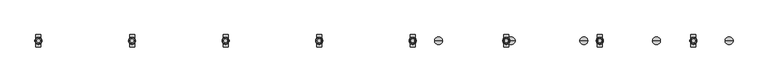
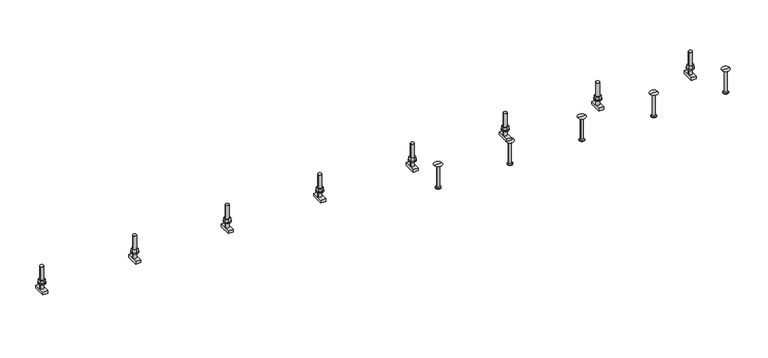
"""IFC4 building model written with IfcOpenShell, lengths in millimetres: fastener geometry, JTA-W JORDAHL® AnchorChannels : JTA-W L=3000 mm."""

from ifc_helpers import new_model, si_unit, point, frame, frame_2d, origin, place, context, project, spatial, polyline, circle_curve, trimmed, segment, composite_curve, outline, extrude, source, transform, mapped, element, save
from ifc_brep_helpers import plane_surface, cylinder_surface, revolved_surface, advanced_brep


def fastener_a6c46896(model_context):
    return source(origin(), model_context, "Body", "SolidModel", [
        extrude(outline(polyline([(2608.3333333, -10.3923048), (2599.3333333, -5.1961524), (2599.3333333, 5.1961524), (2608.3333333, 10.3923048), (2617.3333333, 5.1961524), (2617.3333333, -5.1961524), (2608.3333333, -10.3923048)]), holes=[composite_curve([segment(trimmed(circle_curve(frame_2d((2608.3333333, 0.0)), 6.0), [point((2602.3333333, 0.0))], [point((2614.3333333, 0.0))], True, "CARTESIAN"), True, "CONTINUOUS"), segment(trimmed(circle_curve(frame_2d((2608.3333333, 0.0)), 6.0), [point((2614.3333333, 0.0))], [point((2602.3333333, 0.0))], True, "CARTESIAN"), True, "CONTINUOUS")], self_intersect=False)]), frame((0.0, 0.0, 17.5), z_axis=(0.0, 0.0, 1.0), x_axis=(1.0, 0.0, 0.0)), (0.0, 0.0, 1.0), 10.8),
        extrude(outline(composite_curve([segment(trimmed(circle_curve(frame_2d((2608.3333333, 0.0)), 12.0), [point((2596.3333333, 0.0))], [point((2620.3333333, 0.0))], False, "CARTESIAN"), True, "CONTINUOUS"), segment(trimmed(circle_curve(frame_2d((2608.3333333, 0.0)), 12.0), [point((2620.3333333, 0.0))], [point((2596.3333333, 0.0))], False, "CARTESIAN"), True, "CONTINUOUS")], self_intersect=False), holes=[composite_curve([segment(trimmed(circle_curve(frame_2d((2608.3333333, 0.0)), 6.5), [point((2601.8333333, 0.0))], [point((2614.8333333, 0.0))], True, "CARTESIAN"), True, "CONTINUOUS"), segment(trimmed(circle_curve(frame_2d((2608.3333333, 0.0)), 6.5), [point((2614.8333333, 0.0))], [point((2601.8333333, 0.0))], True, "CARTESIAN"), True, "CONTINUOUS")], self_intersect=False)]), frame((0.0, 0.0, 15.0), z_axis=(0.0, 0.0, 1.0), x_axis=(1.0, 0.0, 0.0)), (0.0, 0.0, 1.0), 2.5),
        extrude(outline(polyline([(2291.6666667, -10.3923048), (2282.6666667, -5.1961524), (2282.6666667, 5.1961524), (2291.6666667, 10.3923048), (2300.6666667, 5.1961524), (2300.6666667, -5.1961524), (2291.6666667, -10.3923048)]), holes=[composite_curve([segment(trimmed(circle_curve(frame_2d((2291.6666667, 0.0)), 6.0), [point((2285.6666667, 0.0))], [point((2297.6666667, 0.0))], True, "CARTESIAN"), True, "CONTINUOUS"), segment(trimmed(circle_curve(frame_2d((2291.6666667, 0.0)), 6.0), [point((2297.6666667, 0.0))], [point((2285.6666667, 0.0))], True, "CARTESIAN"), True, "CONTINUOUS")], self_intersect=False)]), frame((0.0, 0.0, 17.5), z_axis=(0.0, 0.0, 1.0), x_axis=(1.0, 0.0, 0.0)), (0.0, 0.0, 1.0), 10.8),
        extrude(outline(composite_curve([segment(trimmed(circle_curve(frame_2d((2291.6666667, 0.0)), 12.0), [point((2279.6666667, 0.0))], [point((2303.6666667, 0.0))], False, "CARTESIAN"), True, "CONTINUOUS"), segment(trimmed(circle_curve(frame_2d((2291.6666667, 0.0)), 12.0), [point((2303.6666667, 0.0))], [point((2279.6666667, 0.0))], False, "CARTESIAN"), True, "CONTINUOUS")], self_intersect=False), holes=[composite_curve([segment(trimmed(circle_curve(frame_2d((2291.6666667, 0.0)), 6.5), [point((2285.1666667, 0.0))], [point((2298.1666667, 0.0))], True, "CARTESIAN"), True, "CONTINUOUS"), segment(trimmed(circle_curve(frame_2d((2291.6666667, 0.0)), 6.5), [point((2298.1666667, 0.0))], [point((2285.1666667, 0.0))], True, "CARTESIAN"), True, "CONTINUOUS")], self_intersect=False)]), frame((0.0, 0.0, 15.0), z_axis=(0.0, 0.0, 1.0), x_axis=(1.0, 0.0, 0.0)), (0.0, 0.0, 1.0), 2.5),
        extrude(outline(polyline([(1975.0, -10.3923048), (1966.0, -5.1961524), (1966.0, 5.1961524), (1975.0, 10.3923048), (1984.0, 5.1961524), (1984.0, -5.1961524), (1975.0, -10.3923048)]), holes=[composite_curve([segment(trimmed(circle_curve(frame_2d((1975.0, 0.0)), 6.0), [point((1969.0, 0.0))], [point((1981.0, 0.0))], True, "CARTESIAN"), True, "CONTINUOUS"), segment(trimmed(circle_curve(frame_2d((1975.0, 0.0)), 6.0), [point((1981.0, 0.0))], [point((1969.0, 0.0))], True, "CARTESIAN"), True, "CONTINUOUS")], self_intersect=False)]), frame((0.0, 0.0, 17.5), z_axis=(0.0, 0.0, 1.0), x_axis=(1.0, 0.0, 0.0)), (0.0, 0.0, 1.0), 10.8),
        extrude(outline(composite_curve([segment(trimmed(circle_curve(frame_2d((1975.0, 0.0)), 12.0), [point((1963.0, 0.0))], [point((1987.0, 0.0))], False, "CARTESIAN"), True, "CONTINUOUS"), segment(trimmed(circle_curve(frame_2d((1975.0, 0.0)), 12.0), [point((1987.0, 0.0))], [point((1963.0, 0.0))], False, "CARTESIAN"), True, "CONTINUOUS")], self_intersect=False), holes=[composite_curve([segment(trimmed(circle_curve(frame_2d((1975.0, 0.0)), 6.5), [point((1968.5, 0.0))], [point((1981.5, 0.0))], True, "CARTESIAN"), True, "CONTINUOUS"), segment(trimmed(circle_curve(frame_2d((1975.0, 0.0)), 6.5), [point((1981.5, 0.0))], [point((1968.5, 0.0))], True, "CARTESIAN"), True, "CONTINUOUS")], self_intersect=False)]), frame((0.0, 0.0, 15.0), z_axis=(0.0, 0.0, 1.0), x_axis=(1.0, 0.0, 0.0)), (0.0, 0.0, 1.0), 2.5),
        extrude(outline(polyline([(1658.3333333, -10.3923048), (1649.3333333, -5.1961524), (1649.3333333, 5.1961524), (1658.3333333, 10.3923048), (1667.3333333, 5.1961524), (1667.3333333, -5.1961524), (1658.3333333, -10.3923048)]), holes=[composite_curve([segment(trimmed(circle_curve(frame_2d((1658.3333333, 0.0)), 6.0), [point((1652.3333333, 0.0))], [point((1664.3333333, 0.0))], True, "CARTESIAN"), True, "CONTINUOUS"), segment(trimmed(circle_curve(frame_2d((1658.3333333, 0.0)), 6.0), [point((1664.3333333, 0.0))], [point((1652.3333333, 0.0))], True, "CARTESIAN"), True, "CONTINUOUS")], self_intersect=False)]), frame((0.0, 0.0, 17.5), z_axis=(0.0, 0.0, 1.0), x_axis=(1.0, 0.0, 0.0)), (0.0, 0.0, 1.0), 10.8),
        extrude(outline(composite_curve([segment(trimmed(circle_curve(frame_2d((1658.3333333, 0.0)), 12.0), [point((1646.3333333, 0.0))], [point((1670.3333333, 0.0))], False, "CARTESIAN"), True, "CONTINUOUS"), segment(trimmed(circle_curve(frame_2d((1658.3333333, 0.0)), 12.0), [point((1670.3333333, 0.0))], [point((1646.3333333, 0.0))], False, "CARTESIAN"), True, "CONTINUOUS")], self_intersect=False), holes=[composite_curve([segment(trimmed(circle_curve(frame_2d((1658.3333333, 0.0)), 6.5), [point((1651.8333333, 0.0))], [point((1664.8333333, 0.0))], True, "CARTESIAN"), True, "CONTINUOUS"), segment(trimmed(circle_curve(frame_2d((1658.3333333, 0.0)), 6.5), [point((1664.8333333, 0.0))], [point((1651.8333333, 0.0))], True, "CARTESIAN"), True, "CONTINUOUS")], self_intersect=False)]), frame((0.0, 0.0, 15.0), z_axis=(0.0, 0.0, 1.0), x_axis=(1.0, 0.0, 0.0)), (0.0, 0.0, 1.0), 2.5),
        extrude(outline(polyline([(1341.6666667, -10.3923048), (1332.6666667, -5.1961524), (1332.6666667, 5.1961524), (1341.6666667, 10.3923048), (1350.6666667, 5.1961524), (1350.6666667, -5.1961524), (1341.6666667, -10.3923048)]), holes=[composite_curve([segment(trimmed(circle_curve(frame_2d((1341.6666667, 0.0)), 6.0), [point((1335.6666667, 0.0))], [point((1347.6666667, 0.0))], True, "CARTESIAN"), True, "CONTINUOUS"), segment(trimmed(circle_curve(frame_2d((1341.6666667, 0.0)), 6.0), [point((1347.6666667, 0.0))], [point((1335.6666667, 0.0))], True, "CARTESIAN"), True, "CONTINUOUS")], self_intersect=False)]), frame((0.0, 0.0, 17.5), z_axis=(0.0, 0.0, 1.0), x_axis=(1.0, 0.0, 0.0)), (0.0, 0.0, 1.0), 10.8),
        extrude(outline(composite_curve([segment(trimmed(circle_curve(frame_2d((1341.6666667, 0.0)), 12.0), [point((1329.6666667, 0.0))], [point((1353.6666667, 0.0))], False, "CARTESIAN"), True, "CONTINUOUS"), segment(trimmed(circle_curve(frame_2d((1341.6666667, 0.0)), 12.0), [point((1353.6666667, 0.0))], [point((1329.6666667, 0.0))], False, "CARTESIAN"), True, "CONTINUOUS")], self_intersect=False), holes=[composite_curve([segment(trimmed(circle_curve(frame_2d((1341.6666667, 0.0)), 6.5), [point((1335.1666667, 0.0))], [point((1348.1666667, 0.0))], True, "CARTESIAN"), True, "CONTINUOUS"), segment(trimmed(circle_curve(frame_2d((1341.6666667, 0.0)), 6.5), [point((1348.1666667, 0.0))], [point((1335.1666667, 0.0))], True, "CARTESIAN"), True, "CONTINUOUS")], self_intersect=False)]), frame((0.0, 0.0, 15.0), z_axis=(0.0, 0.0, 1.0), x_axis=(1.0, 0.0, 0.0)), (0.0, 0.0, 1.0), 2.5),
        extrude(outline(polyline([(1025.0, -10.3923048), (1016.0, -5.1961524), (1016.0, 5.1961524), (1025.0, 10.3923048), (1034.0, 5.1961524), (1034.0, -5.1961524), (1025.0, -10.3923048)]), holes=[composite_curve([segment(trimmed(circle_curve(frame_2d((1025.0, 0.0)), 6.0), [point((1019.0, 0.0))], [point((1031.0, 0.0))], True, "CARTESIAN"), True, "CONTINUOUS"), segment(trimmed(circle_curve(frame_2d((1025.0, 0.0)), 6.0), [point((1031.0, 0.0))], [point((1019.0, 0.0))], True, "CARTESIAN"), True, "CONTINUOUS")], self_intersect=False)]), frame((0.0, 0.0, 17.5), z_axis=(0.0, 0.0, 1.0), x_axis=(1.0, 0.0, 0.0)), (0.0, 0.0, 1.0), 10.8),
        extrude(outline(composite_curve([segment(trimmed(circle_curve(frame_2d((1025.0, 0.0)), 12.0), [point((1013.0, 0.0))], [point((1037.0, 0.0))], False, "CARTESIAN"), True, "CONTINUOUS"), segment(trimmed(circle_curve(frame_2d((1025.0, 0.0)), 12.0), [point((1037.0, 0.0))], [point((1013.0, 0.0))], False, "CARTESIAN"), True, "CONTINUOUS")], self_intersect=False), holes=[composite_curve([segment(trimmed(circle_curve(frame_2d((1025.0, 0.0)), 6.5), [point((1018.5, 0.0))], [point((1031.5, 0.0))], True, "CARTESIAN"), True, "CONTINUOUS"), segment(trimmed(circle_curve(frame_2d((1025.0, 0.0)), 6.5), [point((1031.5, 0.0))], [point((1018.5, 0.0))], True, "CARTESIAN"), True, "CONTINUOUS")], self_intersect=False)]), frame((0.0, 0.0, 15.0), z_axis=(0.0, 0.0, 1.0), x_axis=(1.0, 0.0, 0.0)), (0.0, 0.0, 1.0), 2.5),
        extrude(outline(polyline([(708.3333333, -10.3923048), (699.3333333, -5.1961524), (699.3333333, 5.1961524), (708.3333333, 10.3923048), (717.3333333, 5.1961524), (717.3333333, -5.1961524), (708.3333333, -10.3923048)]), holes=[composite_curve([segment(trimmed(circle_curve(frame_2d((708.3333333, 0.0)), 6.0), [point((702.3333333, 0.0))], [point((714.3333333, 0.0))], True, "CARTESIAN"), True, "CONTINUOUS"), segment(trimmed(circle_curve(frame_2d((708.3333333, 0.0)), 6.0), [point((714.3333333, 0.0))], [point((702.3333333, 0.0))], True, "CARTESIAN"), True, "CONTINUOUS")], self_intersect=False)]), frame((0.0, 0.0, 17.5), z_axis=(0.0, 0.0, 1.0), x_axis=(1.0, 0.0, 0.0)), (0.0, 0.0, 1.0), 10.8),
        extrude(outline(composite_curve([segment(trimmed(circle_curve(frame_2d((708.3333333, 0.0)), 12.0), [point((696.3333333, 0.0))], [point((720.3333333, 0.0))], False, "CARTESIAN"), True, "CONTINUOUS"), segment(trimmed(circle_curve(frame_2d((708.3333333, 0.0)), 12.0), [point((720.3333333, 0.0))], [point((696.3333333, 0.0))], False, "CARTESIAN"), True, "CONTINUOUS")], self_intersect=False), holes=[composite_curve([segment(trimmed(circle_curve(frame_2d((708.3333333, 0.0)), 6.5), [point((701.8333333, 0.0))], [point((714.8333333, 0.0))], True, "CARTESIAN"), True, "CONTINUOUS"), segment(trimmed(circle_curve(frame_2d((708.3333333, 0.0)), 6.5), [point((714.8333333, 0.0))], [point((701.8333333, 0.0))], True, "CARTESIAN"), True, "CONTINUOUS")], self_intersect=False)]), frame((0.0, 0.0, 15.0), z_axis=(0.0, 0.0, 1.0), x_axis=(1.0, 0.0, 0.0)), (0.0, 0.0, 1.0), 2.5),
        extrude(outline(polyline([(391.6666667, -10.3923048), (382.6666667, -5.1961524), (382.6666667, 5.1961524), (391.6666667, 10.3923048), (400.6666667, 5.1961524), (400.6666667, -5.1961524), (391.6666667, -10.3923048)]), holes=[composite_curve([segment(trimmed(circle_curve(frame_2d((391.6666667, 0.0)), 6.0), [point((385.6666667, 0.0))], [point((397.6666667, 0.0))], True, "CARTESIAN"), True, "CONTINUOUS"), segment(trimmed(circle_curve(frame_2d((391.6666667, 0.0)), 6.0), [point((397.6666667, 0.0))], [point((385.6666667, 0.0))], True, "CARTESIAN"), True, "CONTINUOUS")], self_intersect=False)]), frame((0.0, 0.0, 17.5), z_axis=(0.0, 0.0, 1.0), x_axis=(1.0, 0.0, 0.0)), (0.0, 0.0, 1.0), 10.8),
        extrude(outline(composite_curve([segment(trimmed(circle_curve(frame_2d((391.6666667, 0.0)), 12.0), [point((379.6666667, 0.0))], [point((403.6666667, 0.0))], False, "CARTESIAN"), True, "CONTINUOUS"), segment(trimmed(circle_curve(frame_2d((391.6666667, 0.0)), 12.0), [point((403.6666667, 0.0))], [point((379.6666667, 0.0))], False, "CARTESIAN"), True, "CONTINUOUS")], self_intersect=False), holes=[composite_curve([segment(trimmed(circle_curve(frame_2d((391.6666667, 0.0)), 6.5), [point((385.1666667, 0.0))], [point((398.1666667, 0.0))], True, "CARTESIAN"), True, "CONTINUOUS"), segment(trimmed(circle_curve(frame_2d((391.6666667, 0.0)), 6.5), [point((398.1666667, 0.0))], [point((385.1666667, 0.0))], True, "CARTESIAN"), True, "CONTINUOUS")], self_intersect=False)]), frame((0.0, 0.0, 15.0), z_axis=(0.0, 0.0, 1.0), x_axis=(1.0, 0.0, 0.0)), (0.0, 0.0, 1.0), 2.5),
        advanced_brep(
        [(2616.8333333, -20.7, -4.0), (2616.8333333, -20.7, -14.0), (2616.8333333, 20.7, -14.0), (2616.8333333, 20.7, -4.0), (2599.8333333, -20.7, -4.0), (2599.8333333, 20.7, -4.0), (2599.8333333, 20.7, -14.0), (2599.8333333, -20.7, -14.0), (2614.3333333, 0.0, -4.0), (2602.3333333, 0.0, -4.0), (2602.3333333, 0.0, 76.0), (2614.3333333, 0.0, 76.0)],
        [
            (0, 1),
            (1, 2),
            (2, 3),
            (3, 0),
            (4, 5),
            (5, 6),
            (6, 7),
            (7, 4),
            (3, 5),
            (4, 0),
            (8, 9, circle_curve(frame((2608.3333333, 0.0, -4.0), z_axis=(0.0, 0.0, -1.0), x_axis=(1.0, 0.0, 0.0)), 6.0)),
            (9, 8, circle_curve(frame((2608.3333333, 0.0, -4.0), z_axis=(0.0, 0.0, -1.0), x_axis=(1.0, 0.0, 0.0)), 6.0)),
            (2, 6),
            (1, 7),
            (10, 11, circle_curve(frame((2608.3333333, 0.0, 76.0), z_axis=(0.0, 0.0, 1.0), x_axis=(1.0, 0.0, 0.0)), 6.0)),
            (11, 10, circle_curve(frame((2608.3333333, 0.0, 76.0), z_axis=(0.0, 0.0, 1.0), x_axis=(1.0, 0.0, 0.0)), 6.0)),
            (11, 8),
            (9, 10),
        ],
        [
            plane_surface(frame((2616.8333333, 20.7, -4.0), z_axis=(1.0, 0.0, 0.0), x_axis=(0.0, 1.0, 0.0))),
            plane_surface(frame((2599.8333333, 20.7, -4.0), z_axis=(-1.0, 0.0, 0.0), x_axis=(0.0, -1.0, 0.0))),
            plane_surface(frame((2616.8333333, -20.7, -4.0), z_axis=(0.0, 0.0, 1.0), x_axis=(-1.0, 0.0, 0.0))),
            plane_surface(frame((2616.8333333, 20.7, -4.0), z_axis=(0.0, 1.0, 0.0), x_axis=(-1.0, 0.0, 0.0))),
            plane_surface(frame((2616.8333333, 20.7, -14.0), z_axis=(0.0, 0.0, -1.0), x_axis=(-1.0, 0.0, 0.0))),
            plane_surface(frame((2616.8333333, -20.7, -14.0), z_axis=(0.0, -1.0, 0.0), x_axis=(-1.0, 0.0, 0.0))),
            plane_surface(frame((2614.3333333, 0.0, 76.0), z_axis=(0.0, 0.0, 1.0), x_axis=(0.0, -1.0, 0.0))),
            cylinder_surface(frame((2608.3333333, 0.0, -4.0), z_axis=(0.0, 0.0, 1.0), x_axis=(1.0, 0.0, 0.0)), 6.0),
        ],
        [
            (0, [[1, 2, 3, 4]]),
            (1, [[5, 6, 7, 8]]),
            (2, [[9, -5, 10, -4], [11, 12]]),
            (3, [[13, -6, -9, -3]]),
            (4, [[14, -7, -13, -2]]),
            (5, [[-10, -8, -14, -1]]),
            (6, [[15, 16]]),
            (7, [[17, -12, 18, -16]]),
            (7, [[-18, -11, -17, -15]]),
        ],
    ),
        advanced_brep(
        [(2300.1666667, -20.7, -4.0), (2300.1666667, -20.7, -14.0), (2300.1666667, 20.7, -14.0), (2300.1666667, 20.7, -4.0), (2283.1666667, -20.7, -4.0), (2283.1666667, 20.7, -4.0), (2283.1666667, 20.7, -14.0), (2283.1666667, -20.7, -14.0), (2297.6666667, 0.0, -4.0), (2285.6666667, 0.0, -4.0), (2285.6666667, 0.0, 76.0), (2297.6666667, 0.0, 76.0)],
        [
            (0, 1),
            (1, 2),
            (2, 3),
            (3, 0),
            (4, 5),
            (5, 6),
            (6, 7),
            (7, 4),
            (3, 5),
            (4, 0),
            (8, 9, circle_curve(frame((2291.6666667, 0.0, -4.0), z_axis=(0.0, 0.0, -1.0), x_axis=(1.0, 0.0, 0.0)), 6.0)),
            (9, 8, circle_curve(frame((2291.6666667, 0.0, -4.0), z_axis=(0.0, 0.0, -1.0), x_axis=(1.0, 0.0, 0.0)), 6.0)),
            (2, 6),
            (1, 7),
            (10, 11, circle_curve(frame((2291.6666667, 0.0, 76.0), z_axis=(0.0, 0.0, 1.0), x_axis=(1.0, 0.0, 0.0)), 6.0)),
            (11, 10, circle_curve(frame((2291.6666667, 0.0, 76.0), z_axis=(0.0, 0.0, 1.0), x_axis=(1.0, 0.0, 0.0)), 6.0)),
            (11, 8),
            (9, 10),
        ],
        [
            plane_surface(frame((2300.1666667, 20.7, -4.0), z_axis=(1.0, 0.0, 0.0), x_axis=(0.0, 1.0, 0.0))),
            plane_surface(frame((2283.1666667, 20.7, -4.0), z_axis=(-1.0, 0.0, 0.0), x_axis=(0.0, -1.0, 0.0))),
            plane_surface(frame((2300.1666667, -20.7, -4.0), z_axis=(0.0, 0.0, 1.0), x_axis=(-1.0, 0.0, 0.0))),
            plane_surface(frame((2300.1666667, 20.7, -4.0), z_axis=(0.0, 1.0, 0.0), x_axis=(-1.0, 0.0, 0.0))),
            plane_surface(frame((2300.1666667, 20.7, -14.0), z_axis=(0.0, 0.0, -1.0), x_axis=(-1.0, 0.0, 0.0))),
            plane_surface(frame((2300.1666667, -20.7, -14.0), z_axis=(0.0, -1.0, 0.0), x_axis=(-1.0, 0.0, 0.0))),
            plane_surface(frame((2297.6666667, 0.0, 76.0), z_axis=(0.0, 0.0, 1.0), x_axis=(0.0, -1.0, 0.0))),
            cylinder_surface(frame((2291.6666667, 0.0, -4.0), z_axis=(0.0, 0.0, 1.0), x_axis=(1.0, 0.0, 0.0)), 6.0),
        ],
        [
            (0, [[1, 2, 3, 4]]),
            (1, [[5, 6, 7, 8]]),
            (2, [[9, -5, 10, -4], [11, 12]]),
            (3, [[13, -6, -9, -3]]),
            (4, [[14, -7, -13, -2]]),
            (5, [[-10, -8, -14, -1]]),
            (6, [[15, 16]]),
            (7, [[17, -12, 18, -16]]),
            (7, [[-18, -11, -17, -15]]),
        ],
    ),
        advanced_brep(
        [(1983.5, -20.7, -4.0), (1983.5, -20.7, -14.0), (1983.5, 20.7, -14.0), (1983.5, 20.7, -4.0), (1966.5, -20.7, -4.0), (1966.5, 20.7, -4.0), (1966.5, 20.7, -14.0), (1966.5, -20.7, -14.0), (1981.0, 0.0, -4.0), (1969.0, 0.0, -4.0), (1969.0, 0.0, 76.0), (1981.0, 0.0, 76.0)],
        [
            (0, 1),
            (1, 2),
            (2, 3),
            (3, 0),
            (4, 5),
            (5, 6),
            (6, 7),
            (7, 4),
            (3, 5),
            (4, 0),
            (8, 9, circle_curve(frame((1975.0, 0.0, -4.0), z_axis=(0.0, 0.0, -1.0), x_axis=(1.0, 0.0, 0.0)), 6.0)),
            (9, 8, circle_curve(frame((1975.0, 0.0, -4.0), z_axis=(0.0, 0.0, -1.0), x_axis=(1.0, 0.0, 0.0)), 6.0)),
            (2, 6),
            (1, 7),
            (10, 11, circle_curve(frame((1975.0, 0.0, 76.0), z_axis=(0.0, 0.0, 1.0), x_axis=(1.0, 0.0, 0.0)), 6.0)),
            (11, 10, circle_curve(frame((1975.0, 0.0, 76.0), z_axis=(0.0, 0.0, 1.0), x_axis=(1.0, 0.0, 0.0)), 6.0)),
            (11, 8),
            (9, 10),
        ],
        [
            plane_surface(frame((1983.5, 20.7, -4.0), z_axis=(1.0, 0.0, 0.0), x_axis=(0.0, 1.0, 0.0))),
            plane_surface(frame((1966.5, 20.7, -4.0), z_axis=(-1.0, 0.0, 0.0), x_axis=(0.0, -1.0, 0.0))),
            plane_surface(frame((1983.5, -20.7, -4.0), z_axis=(0.0, 0.0, 1.0), x_axis=(-1.0, 0.0, 0.0))),
            plane_surface(frame((1983.5, 20.7, -4.0), z_axis=(0.0, 1.0, 0.0), x_axis=(-1.0, 0.0, 0.0))),
            plane_surface(frame((1983.5, 20.7, -14.0), z_axis=(0.0, 0.0, -1.0), x_axis=(-1.0, 0.0, 0.0))),
            plane_surface(frame((1983.5, -20.7, -14.0), z_axis=(0.0, -1.0, 0.0), x_axis=(-1.0, 0.0, 0.0))),
            plane_surface(frame((1981.0, 0.0, 76.0), z_axis=(0.0, 0.0, 1.0), x_axis=(0.0, -1.0, 0.0))),
            cylinder_surface(frame((1975.0, 0.0, -4.0), z_axis=(0.0, 0.0, 1.0), x_axis=(1.0, 0.0, 0.0)), 6.0),
        ],
        [
            (0, [[1, 2, 3, 4]]),
            (1, [[5, 6, 7, 8]]),
            (2, [[9, -5, 10, -4], [11, 12]]),
            (3, [[13, -6, -9, -3]]),
            (4, [[14, -7, -13, -2]]),
            (5, [[-10, -8, -14, -1]]),
            (6, [[15, 16]]),
            (7, [[17, -12, 18, -16]]),
            (7, [[-18, -11, -17, -15]]),
        ],
    ),
        advanced_brep(
        [(1666.8333333, -20.7, -4.0), (1666.8333333, -20.7, -14.0), (1666.8333333, 20.7, -14.0), (1666.8333333, 20.7, -4.0), (1649.8333333, -20.7, -4.0), (1649.8333333, 20.7, -4.0), (1649.8333333, 20.7, -14.0), (1649.8333333, -20.7, -14.0), (1664.3333333, 0.0, -4.0), (1652.3333333, 0.0, -4.0), (1652.3333333, 0.0, 76.0), (1664.3333333, 0.0, 76.0)],
        [
            (0, 1),
            (1, 2),
            (2, 3),
            (3, 0),
            (4, 5),
            (5, 6),
            (6, 7),
            (7, 4),
            (3, 5),
            (4, 0),
            (8, 9, circle_curve(frame((1658.3333333, 0.0, -4.0), z_axis=(0.0, 0.0, -1.0), x_axis=(1.0, 0.0, 0.0)), 6.0)),
            (9, 8, circle_curve(frame((1658.3333333, 0.0, -4.0), z_axis=(0.0, 0.0, -1.0), x_axis=(1.0, 0.0, 0.0)), 6.0)),
            (2, 6),
            (1, 7),
            (10, 11, circle_curve(frame((1658.3333333, 0.0, 76.0), z_axis=(0.0, 0.0, 1.0), x_axis=(1.0, 0.0, 0.0)), 6.0)),
            (11, 10, circle_curve(frame((1658.3333333, 0.0, 76.0), z_axis=(0.0, 0.0, 1.0), x_axis=(1.0, 0.0, 0.0)), 6.0)),
            (11, 8),
            (9, 10),
        ],
        [
            plane_surface(frame((1666.8333333, 20.7, -4.0), z_axis=(1.0, 0.0, 0.0), x_axis=(0.0, 1.0, 0.0))),
            plane_surface(frame((1649.8333333, 20.7, -4.0), z_axis=(-1.0, 0.0, 0.0), x_axis=(0.0, -1.0, 0.0))),
            plane_surface(frame((1666.8333333, -20.7, -4.0), z_axis=(0.0, 0.0, 1.0), x_axis=(-1.0, 0.0, 0.0))),
            plane_surface(frame((1666.8333333, 20.7, -4.0), z_axis=(0.0, 1.0, 0.0), x_axis=(-1.0, 0.0, 0.0))),
            plane_surface(frame((1666.8333333, 20.7, -14.0), z_axis=(0.0, 0.0, -1.0), x_axis=(-1.0, 0.0, 0.0))),
            plane_surface(frame((1666.8333333, -20.7, -14.0), z_axis=(0.0, -1.0, 0.0), x_axis=(-1.0, 0.0, 0.0))),
            plane_surface(frame((1664.3333333, 0.0, 76.0), z_axis=(0.0, 0.0, 1.0), x_axis=(0.0, -1.0, 0.0))),
            cylinder_surface(frame((1658.3333333, 0.0, -4.0), z_axis=(0.0, 0.0, 1.0), x_axis=(1.0, 0.0, 0.0)), 6.0),
        ],
        [
            (0, [[1, 2, 3, 4]]),
            (1, [[5, 6, 7, 8]]),
            (2, [[9, -5, 10, -4], [11, 12]]),
            (3, [[13, -6, -9, -3]]),
            (4, [[14, -7, -13, -2]]),
            (5, [[-10, -8, -14, -1]]),
            (6, [[15, 16]]),
            (7, [[17, -12, 18, -16]]),
            (7, [[-18, -11, -17, -15]]),
        ],
    ),
        advanced_brep(
        [(1350.1666667, -20.7, -4.0), (1350.1666667, -20.7, -14.0), (1350.1666667, 20.7, -14.0), (1350.1666667, 20.7, -4.0), (1333.1666667, -20.7, -4.0), (1333.1666667, 20.7, -4.0), (1333.1666667, 20.7, -14.0), (1333.1666667, -20.7, -14.0), (1347.6666667, 0.0, -4.0), (1335.6666667, 0.0, -4.0), (1335.6666667, 0.0, 76.0), (1347.6666667, 0.0, 76.0)],
        [
            (0, 1),
            (1, 2),
            (2, 3),
            (3, 0),
            (4, 5),
            (5, 6),
            (6, 7),
            (7, 4),
            (3, 5),
            (4, 0),
            (8, 9, circle_curve(frame((1341.6666667, 0.0, -4.0), z_axis=(0.0, 0.0, -1.0), x_axis=(1.0, 0.0, 0.0)), 6.0)),
            (9, 8, circle_curve(frame((1341.6666667, 0.0, -4.0), z_axis=(0.0, 0.0, -1.0), x_axis=(1.0, 0.0, 0.0)), 6.0)),
            (2, 6),
            (1, 7),
            (10, 11, circle_curve(frame((1341.6666667, 0.0, 76.0), z_axis=(0.0, 0.0, 1.0), x_axis=(1.0, 0.0, 0.0)), 6.0)),
            (11, 10, circle_curve(frame((1341.6666667, 0.0, 76.0), z_axis=(0.0, 0.0, 1.0), x_axis=(1.0, 0.0, 0.0)), 6.0)),
            (11, 8),
            (9, 10),
        ],
        [
            plane_surface(frame((1350.1666667, 20.7, -4.0), z_axis=(1.0, 0.0, 0.0), x_axis=(0.0, 1.0, 0.0))),
            plane_surface(frame((1333.1666667, 20.7, -4.0), z_axis=(-1.0, 0.0, 0.0), x_axis=(0.0, -1.0, 0.0))),
            plane_surface(frame((1350.1666667, -20.7, -4.0), z_axis=(0.0, 0.0, 1.0), x_axis=(-1.0, 0.0, 0.0))),
            plane_surface(frame((1350.1666667, 20.7, -4.0), z_axis=(0.0, 1.0, 0.0), x_axis=(-1.0, 0.0, 0.0))),
            plane_surface(frame((1350.1666667, 20.7, -14.0), z_axis=(0.0, 0.0, -1.0), x_axis=(-1.0, 0.0, 0.0))),
            plane_surface(frame((1350.1666667, -20.7, -14.0), z_axis=(0.0, -1.0, 0.0), x_axis=(-1.0, 0.0, 0.0))),
            plane_surface(frame((1347.6666667, 0.0, 76.0), z_axis=(0.0, 0.0, 1.0), x_axis=(0.0, -1.0, 0.0))),
            cylinder_surface(frame((1341.6666667, 0.0, -4.0), z_axis=(0.0, 0.0, 1.0), x_axis=(1.0, 0.0, 0.0)), 6.0),
        ],
        [
            (0, [[1, 2, 3, 4]]),
            (1, [[5, 6, 7, 8]]),
            (2, [[9, -5, 10, -4], [11, 12]]),
            (3, [[13, -6, -9, -3]]),
            (4, [[14, -7, -13, -2]]),
            (5, [[-10, -8, -14, -1]]),
            (6, [[15, 16]]),
            (7, [[17, -12, 18, -16]]),
            (7, [[-18, -11, -17, -15]]),
        ],
    ),
        advanced_brep(
        [(1033.5, -20.7, -4.0), (1033.5, -20.7, -14.0), (1033.5, 20.7, -14.0), (1033.5, 20.7, -4.0), (1016.5, -20.7, -4.0), (1016.5, 20.7, -4.0), (1016.5, 20.7, -14.0), (1016.5, -20.7, -14.0), (1031.0, 0.0, -4.0), (1019.0, 0.0, -4.0), (1019.0, 0.0, 76.0), (1031.0, 0.0, 76.0)],
        [
            (0, 1),
            (1, 2),
            (2, 3),
            (3, 0),
            (4, 5),
            (5, 6),
            (6, 7),
            (7, 4),
            (3, 5),
            (4, 0),
            (8, 9, circle_curve(frame((1025.0, 0.0, -4.0), z_axis=(0.0, 0.0, -1.0), x_axis=(1.0, 0.0, 0.0)), 6.0)),
            (9, 8, circle_curve(frame((1025.0, 0.0, -4.0), z_axis=(0.0, 0.0, -1.0), x_axis=(1.0, 0.0, 0.0)), 6.0)),
            (2, 6),
            (1, 7),
            (10, 11, circle_curve(frame((1025.0, 0.0, 76.0), z_axis=(0.0, 0.0, 1.0), x_axis=(1.0, 0.0, 0.0)), 6.0)),
            (11, 10, circle_curve(frame((1025.0, 0.0, 76.0), z_axis=(0.0, 0.0, 1.0), x_axis=(1.0, 0.0, 0.0)), 6.0)),
            (11, 8),
            (9, 10),
        ],
        [
            plane_surface(frame((1033.5, 20.7, -4.0), z_axis=(1.0, 0.0, 0.0), x_axis=(0.0, 1.0, 0.0))),
            plane_surface(frame((1016.5, 20.7, -4.0), z_axis=(-1.0, 0.0, 0.0), x_axis=(0.0, -1.0, 0.0))),
            plane_surface(frame((1033.5, -20.7, -4.0), z_axis=(0.0, 0.0, 1.0), x_axis=(-1.0, 0.0, 0.0))),
            plane_surface(frame((1033.5, 20.7, -4.0), z_axis=(0.0, 1.0, 0.0), x_axis=(-1.0, 0.0, 0.0))),
            plane_surface(frame((1033.5, 20.7, -14.0), z_axis=(0.0, 0.0, -1.0), x_axis=(-1.0, 0.0, 0.0))),
            plane_surface(frame((1033.5, -20.7, -14.0), z_axis=(0.0, -1.0, 0.0), x_axis=(-1.0, 0.0, 0.0))),
            plane_surface(frame((1031.0, 0.0, 76.0), z_axis=(0.0, 0.0, 1.0), x_axis=(0.0, -1.0, 0.0))),
            cylinder_surface(frame((1025.0, 0.0, -4.0), z_axis=(0.0, 0.0, 1.0), x_axis=(1.0, 0.0, 0.0)), 6.0),
        ],
        [
            (0, [[1, 2, 3, 4]]),
            (1, [[5, 6, 7, 8]]),
            (2, [[9, -5, 10, -4], [11, 12]]),
            (3, [[13, -6, -9, -3]]),
            (4, [[14, -7, -13, -2]]),
            (5, [[-10, -8, -14, -1]]),
            (6, [[15, 16]]),
            (7, [[17, -12, 18, -16]]),
            (7, [[-18, -11, -17, -15]]),
        ],
    ),
        advanced_brep(
        [(716.8333333, -20.7, -4.0), (716.8333333, -20.7, -14.0), (716.8333333, 20.7, -14.0), (716.8333333, 20.7, -4.0), (699.8333333, -20.7, -4.0), (699.8333333, 20.7, -4.0), (699.8333333, 20.7, -14.0), (699.8333333, -20.7, -14.0), (714.3333333, 0.0, -4.0), (702.3333333, 0.0, -4.0), (702.3333333, 0.0, 76.0), (714.3333333, 0.0, 76.0)],
        [
            (0, 1),
            (1, 2),
            (2, 3),
            (3, 0),
            (4, 5),
            (5, 6),
            (6, 7),
            (7, 4),
            (3, 5),
            (4, 0),
            (8, 9, circle_curve(frame((708.3333333, 0.0, -4.0), z_axis=(0.0, 0.0, -1.0), x_axis=(1.0, 0.0, 0.0)), 6.0)),
            (9, 8, circle_curve(frame((708.3333333, 0.0, -4.0), z_axis=(0.0, 0.0, -1.0), x_axis=(1.0, 0.0, 0.0)), 6.0)),
            (2, 6),
            (1, 7),
            (10, 11, circle_curve(frame((708.3333333, 0.0, 76.0), z_axis=(0.0, 0.0, 1.0), x_axis=(1.0, 0.0, 0.0)), 6.0)),
            (11, 10, circle_curve(frame((708.3333333, 0.0, 76.0), z_axis=(0.0, 0.0, 1.0), x_axis=(1.0, 0.0, 0.0)), 6.0)),
            (11, 8),
            (9, 10),
        ],
        [
            plane_surface(frame((716.8333333, 20.7, -4.0), z_axis=(1.0, 0.0, 0.0), x_axis=(0.0, 1.0, 0.0))),
            plane_surface(frame((699.8333333, 20.7, -4.0), z_axis=(-1.0, 0.0, 0.0), x_axis=(0.0, -1.0, 0.0))),
            plane_surface(frame((716.8333333, -20.7, -4.0), z_axis=(0.0, 0.0, 1.0), x_axis=(-1.0, 0.0, 0.0))),
            plane_surface(frame((716.8333333, 20.7, -4.0), z_axis=(0.0, 1.0, 0.0), x_axis=(-1.0, 0.0, 0.0))),
            plane_surface(frame((716.8333333, 20.7, -14.0), z_axis=(0.0, 0.0, -1.0), x_axis=(-1.0, 0.0, 0.0))),
            plane_surface(frame((716.8333333, -20.7, -14.0), z_axis=(0.0, -1.0, 0.0), x_axis=(-1.0, 0.0, 0.0))),
            plane_surface(frame((714.3333333, 0.0, 76.0), z_axis=(0.0, 0.0, 1.0), x_axis=(0.0, -1.0, 0.0))),
            cylinder_surface(frame((708.3333333, 0.0, -4.0), z_axis=(0.0, 0.0, 1.0), x_axis=(1.0, 0.0, 0.0)), 6.0),
        ],
        [
            (0, [[1, 2, 3, 4]]),
            (1, [[5, 6, 7, 8]]),
            (2, [[9, -5, 10, -4], [11, 12]]),
            (3, [[13, -6, -9, -3]]),
            (4, [[14, -7, -13, -2]]),
            (5, [[-10, -8, -14, -1]]),
            (6, [[15, 16]]),
            (7, [[17, -12, 18, -16]]),
            (7, [[-18, -11, -17, -15]]),
        ],
    ),
        advanced_brep(
        [(400.1666667, -20.7, -4.0), (400.1666667, -20.7, -14.0), (400.1666667, 20.7, -14.0), (400.1666667, 20.7, -4.0), (383.1666667, -20.7, -4.0), (383.1666667, 20.7, -4.0), (383.1666667, 20.7, -14.0), (383.1666667, -20.7, -14.0), (397.6666667, 0.0, -4.0), (385.6666667, 0.0, -4.0), (385.6666667, 0.0, 76.0), (397.6666667, 0.0, 76.0)],
        [
            (0, 1),
            (1, 2),
            (2, 3),
            (3, 0),
            (4, 5),
            (5, 6),
            (6, 7),
            (7, 4),
            (3, 5),
            (4, 0),
            (8, 9, circle_curve(frame((391.6666667, 0.0, -4.0), z_axis=(0.0, 0.0, -1.0), x_axis=(1.0, 0.0, 0.0)), 6.0)),
            (9, 8, circle_curve(frame((391.6666667, 0.0, -4.0), z_axis=(0.0, 0.0, -1.0), x_axis=(1.0, 0.0, 0.0)), 6.0)),
            (2, 6),
            (1, 7),
            (10, 11, circle_curve(frame((391.6666667, 0.0, 76.0), z_axis=(0.0, 0.0, 1.0), x_axis=(1.0, 0.0, 0.0)), 6.0)),
            (11, 10, circle_curve(frame((391.6666667, 0.0, 76.0), z_axis=(0.0, 0.0, 1.0), x_axis=(1.0, 0.0, 0.0)), 6.0)),
            (11, 8),
            (9, 10),
        ],
        [
            plane_surface(frame((400.1666667, 20.7, -4.0), z_axis=(1.0, 0.0, 0.0), x_axis=(0.0, 1.0, 0.0))),
            plane_surface(frame((383.1666667, 20.7, -4.0), z_axis=(-1.0, 0.0, 0.0), x_axis=(0.0, -1.0, 0.0))),
            plane_surface(frame((400.1666667, -20.7, -4.0), z_axis=(0.0, 0.0, 1.0), x_axis=(-1.0, 0.0, 0.0))),
            plane_surface(frame((400.1666667, 20.7, -4.0), z_axis=(0.0, 1.0, 0.0), x_axis=(-1.0, 0.0, 0.0))),
            plane_surface(frame((400.1666667, 20.7, -14.0), z_axis=(0.0, 0.0, -1.0), x_axis=(-1.0, 0.0, 0.0))),
            plane_surface(frame((400.1666667, -20.7, -14.0), z_axis=(0.0, -1.0, 0.0), x_axis=(-1.0, 0.0, 0.0))),
            plane_surface(frame((397.6666667, 0.0, 76.0), z_axis=(0.0, 0.0, 1.0), x_axis=(0.0, -1.0, 0.0))),
            cylinder_surface(frame((391.6666667, 0.0, -4.0), z_axis=(0.0, 0.0, 1.0), x_axis=(1.0, 0.0, 0.0)), 6.0),
        ],
        [
            (0, [[1, 2, 3, 4]]),
            (1, [[5, 6, 7, 8]]),
            (2, [[9, -5, 10, -4], [11, 12]]),
            (3, [[13, -6, -9, -3]]),
            (4, [[14, -7, -13, -2]]),
            (5, [[-10, -8, -14, -1]]),
            (6, [[15, 16]]),
            (7, [[17, -12, 18, -16]]),
            (7, [[-18, -11, -17, -15]]),
        ],
    ),
        advanced_brep(
        [(2729.1666667, 0.0, -30.0), (2715.6666667, 0.0, -30.0), (2742.6666667, 0.0, -30.0), (2720.6666667, 0.0, -115.0), (2729.1666667, 0.0, -115.0), (2737.6666667, 0.0, -115.0), (2720.6666667, 0.0, -113.0), (2737.6666667, 0.0, -113.0), (2724.6666667, 0.0, -110.6905989), (2733.6666667, 0.0, -110.6905989), (2724.6666667, 0.0, -32.5), (2733.6666667, 0.0, -32.5)],
        [
            (0, 1),
            (1, 2, circle_curve(frame((2729.1666667, 0.0, -30.0), z_axis=(0.0, 0.0, 1.0), x_axis=(1.0, 0.0, 0.0)), 13.5)),
            (2, 0),
            (2, 1, circle_curve(frame((2729.1666667, 0.0, -30.0), z_axis=(0.0, 0.0, 1.0), x_axis=(1.0, 0.0, 0.0)), 13.5)),
            (3, 4),
            (4, 5),
            (5, 3, circle_curve(frame((2729.1666667, 0.0, -115.0), z_axis=(0.0, 0.0, -1.0), x_axis=(1.0, 0.0, 0.0)), 8.5)),
            (3, 5, circle_curve(frame((2729.1666667, 0.0, -115.0), z_axis=(0.0, 0.0, -1.0), x_axis=(1.0, 0.0, 0.0)), 8.5)),
            (6, 3),
            (5, 7),
            (7, 6, circle_curve(frame((2729.1666667, 0.0, -113.0), z_axis=(0.0, 0.0, -1.0), x_axis=(1.0, 0.0, 0.0)), 8.5)),
            (6, 7, circle_curve(frame((2729.1666667, 0.0, -113.0), z_axis=(0.0, 0.0, -1.0), x_axis=(1.0, 0.0, 0.0)), 8.5)),
            (8, 6),
            (7, 9),
            (9, 8, circle_curve(frame((2729.1666667, 0.0, -110.6905989), z_axis=(0.0, 0.0, -1.0), x_axis=(1.0, 0.0, 0.0)), 4.5)),
            (8, 9, circle_curve(frame((2729.1666667, 0.0, -110.6905989), z_axis=(0.0, 0.0, -1.0), x_axis=(1.0, 0.0, 0.0)), 4.5)),
            (10, 8),
            (9, 11),
            (11, 10, circle_curve(frame((2729.1666667, 0.0, -32.5), z_axis=(0.0, 0.0, -1.0), x_axis=(1.0, 0.0, 0.0)), 4.5)),
            (10, 11, circle_curve(frame((2729.1666667, 0.0, -32.5), z_axis=(0.0, 0.0, -1.0), x_axis=(1.0, 0.0, 0.0)), 4.5)),
            (1, 10),
            (11, 2),
        ],
        [
            plane_surface(frame((2729.1666667, 0.0, -30.0), z_axis=(0.0, 0.0, 1.0), x_axis=(1.0, 0.0, 0.0))),
            plane_surface(frame((2729.1666667, 0.0, -115.0), z_axis=(0.0, 0.0, -1.0), x_axis=(1.0, 0.0, 0.0))),
            cylinder_surface(frame((2729.1666667, 0.0, 2299.3150031), z_axis=(0.0, 0.0, 1.0), x_axis=(1.0, 0.0, 0.0)), 8.5),
            revolved_surface(polyline([(2737.6666667, 0.0, -113.0), (2733.6666667, 0.0, -110.6905989)]), (2729.1666667, 0.0, 2299.3150031), (0.0, 0.0, 1.0)),
            cylinder_surface(frame((2729.1666667, 0.0, 2299.3150031), z_axis=(0.0, 0.0, 1.0), x_axis=(1.0, 0.0, 0.0)), 4.5),
            revolved_surface(polyline([(2733.6666667, 0.0, -32.5), (2742.6666667, 0.0, -30.0)]), (2729.1666667, 0.0, 2299.3150031), (0.0, 0.0, 1.0)),
        ],
        [
            (0, [[1, 2, 3]]),
            (0, [[-3, 4, -1]]),
            (1, [[5, 6, 7]]),
            (1, [[-6, -5, 8]]),
            (2, [[9, -7, 10, 11]]),
            (2, [[-10, -8, -9, 12]]),
            (3, [[13, -11, 14, 15]]),
            (3, [[-14, -12, -13, 16]]),
            (4, [[17, -15, 18, 19]]),
            (4, [[-18, -16, -17, 20]]),
            (5, [[21, -19, 22, -2]]),
            (5, [[-22, -20, -21, -4]]),
        ],
    ),
        advanced_brep(
        [(2483.3333333, 0.0, -30.0), (2469.8333333, 0.0, -30.0), (2496.8333333, 0.0, -30.0), (2474.8333333, 0.0, -115.0), (2483.3333333, 0.0, -115.0), (2491.8333333, 0.0, -115.0), (2474.8333333, 0.0, -113.0), (2491.8333333, 0.0, -113.0), (2478.8333333, 0.0, -110.6905989), (2487.8333333, 0.0, -110.6905989), (2478.8333333, 0.0, -32.5), (2487.8333333, 0.0, -32.5)],
        [
            (0, 1),
            (1, 2, circle_curve(frame((2483.3333333, 0.0, -30.0), z_axis=(0.0, 0.0, 1.0), x_axis=(1.0, 0.0, 0.0)), 13.5)),
            (2, 0),
            (2, 1, circle_curve(frame((2483.3333333, 0.0, -30.0), z_axis=(0.0, 0.0, 1.0), x_axis=(1.0, 0.0, 0.0)), 13.5)),
            (3, 4),
            (4, 5),
            (5, 3, circle_curve(frame((2483.3333333, 0.0, -115.0), z_axis=(0.0, 0.0, -1.0), x_axis=(1.0, 0.0, 0.0)), 8.5)),
            (3, 5, circle_curve(frame((2483.3333333, 0.0, -115.0), z_axis=(0.0, 0.0, -1.0), x_axis=(1.0, 0.0, 0.0)), 8.5)),
            (6, 3),
            (5, 7),
            (7, 6, circle_curve(frame((2483.3333333, 0.0, -113.0), z_axis=(0.0, 0.0, -1.0), x_axis=(1.0, 0.0, 0.0)), 8.5)),
            (6, 7, circle_curve(frame((2483.3333333, 0.0, -113.0), z_axis=(0.0, 0.0, -1.0), x_axis=(1.0, 0.0, 0.0)), 8.5)),
            (8, 6),
            (7, 9),
            (9, 8, circle_curve(frame((2483.3333333, 0.0, -110.6905989), z_axis=(0.0, 0.0, -1.0), x_axis=(1.0, 0.0, 0.0)), 4.5)),
            (8, 9, circle_curve(frame((2483.3333333, 0.0, -110.6905989), z_axis=(0.0, 0.0, -1.0), x_axis=(1.0, 0.0, 0.0)), 4.5)),
            (10, 8),
            (9, 11),
            (11, 10, circle_curve(frame((2483.3333333, 0.0, -32.5), z_axis=(0.0, 0.0, -1.0), x_axis=(1.0, 0.0, 0.0)), 4.5)),
            (10, 11, circle_curve(frame((2483.3333333, 0.0, -32.5), z_axis=(0.0, 0.0, -1.0), x_axis=(1.0, 0.0, 0.0)), 4.5)),
            (1, 10),
            (11, 2),
        ],
        [
            plane_surface(frame((2483.3333333, 0.0, -30.0), z_axis=(0.0, 0.0, 1.0), x_axis=(1.0, 0.0, 0.0))),
            plane_surface(frame((2483.3333333, 0.0, -115.0), z_axis=(0.0, 0.0, -1.0), x_axis=(1.0, 0.0, 0.0))),
            cylinder_surface(frame((2483.3333333, 0.0, 2299.3150031), z_axis=(0.0, 0.0, 1.0), x_axis=(1.0, 0.0, 0.0)), 8.5),
            revolved_surface(polyline([(2491.8333333, 0.0, -113.0), (2487.8333333, 0.0, -110.6905989)]), (2483.3333333, 0.0, 2299.3150031), (0.0, 0.0, 1.0)),
            cylinder_surface(frame((2483.3333333, 0.0, 2299.3150031), z_axis=(0.0, 0.0, 1.0), x_axis=(1.0, 0.0, 0.0)), 4.5),
            revolved_surface(polyline([(2487.8333333, 0.0, -32.5), (2496.8333333, 0.0, -30.0)]), (2483.3333333, 0.0, 2299.3150031), (0.0, 0.0, 1.0)),
        ],
        [
            (0, [[1, 2, 3]]),
            (0, [[-3, 4, -1]]),
            (1, [[5, 6, 7]]),
            (1, [[-6, -5, 8]]),
            (2, [[9, -7, 10, 11]]),
            (2, [[-10, -8, -9, 12]]),
            (3, [[13, -11, 14, 15]]),
            (3, [[-14, -12, -13, 16]]),
            (4, [[17, -15, 18, 19]]),
            (4, [[-18, -16, -17, 20]]),
            (5, [[21, -19, 22, -2]]),
            (5, [[-22, -20, -21, -4]]),
        ],
    ),
        advanced_brep(
        [(2237.5, 0.0, -30.0), (2224.0, 0.0, -30.0), (2251.0, 0.0, -30.0), (2229.0, 0.0, -115.0), (2237.5, 0.0, -115.0), (2246.0, 0.0, -115.0), (2229.0, 0.0, -113.0), (2246.0, 0.0, -113.0), (2233.0, 0.0, -110.6905989), (2242.0, 0.0, -110.6905989), (2233.0, 0.0, -32.5), (2242.0, 0.0, -32.5)],
        [
            (0, 1),
            (1, 2, circle_curve(frame((2237.5, 0.0, -30.0), z_axis=(0.0, 0.0, 1.0), x_axis=(1.0, 0.0, 0.0)), 13.5)),
            (2, 0),
            (2, 1, circle_curve(frame((2237.5, 0.0, -30.0), z_axis=(0.0, 0.0, 1.0), x_axis=(1.0, 0.0, 0.0)), 13.5)),
            (3, 4),
            (4, 5),
            (5, 3, circle_curve(frame((2237.5, 0.0, -115.0), z_axis=(0.0, 0.0, -1.0), x_axis=(1.0, 0.0, 0.0)), 8.5)),
            (3, 5, circle_curve(frame((2237.5, 0.0, -115.0), z_axis=(0.0, 0.0, -1.0), x_axis=(1.0, 0.0, 0.0)), 8.5)),
            (6, 3),
            (5, 7),
            (7, 6, circle_curve(frame((2237.5, 0.0, -113.0), z_axis=(0.0, 0.0, -1.0), x_axis=(1.0, 0.0, 0.0)), 8.5)),
            (6, 7, circle_curve(frame((2237.5, 0.0, -113.0), z_axis=(0.0, 0.0, -1.0), x_axis=(1.0, 0.0, 0.0)), 8.5)),
            (8, 6),
            (7, 9),
            (9, 8, circle_curve(frame((2237.5, 0.0, -110.6905989), z_axis=(0.0, 0.0, -1.0), x_axis=(1.0, 0.0, 0.0)), 4.5)),
            (8, 9, circle_curve(frame((2237.5, 0.0, -110.6905989), z_axis=(0.0, 0.0, -1.0), x_axis=(1.0, 0.0, 0.0)), 4.5)),
            (10, 8),
            (9, 11),
            (11, 10, circle_curve(frame((2237.5, 0.0, -32.5), z_axis=(0.0, 0.0, -1.0), x_axis=(1.0, 0.0, 0.0)), 4.5)),
            (10, 11, circle_curve(frame((2237.5, 0.0, -32.5), z_axis=(0.0, 0.0, -1.0), x_axis=(1.0, 0.0, 0.0)), 4.5)),
            (1, 10),
            (11, 2),
        ],
        [
            plane_surface(frame((2237.5, 0.0, -30.0), z_axis=(0.0, 0.0, 1.0), x_axis=(1.0, 0.0, 0.0))),
            plane_surface(frame((2237.5, 0.0, -115.0), z_axis=(0.0, 0.0, -1.0), x_axis=(1.0, 0.0, 0.0))),
            cylinder_surface(frame((2237.5, 0.0, 2299.3150031), z_axis=(0.0, 0.0, 1.0), x_axis=(1.0, 0.0, 0.0)), 8.5),
            revolved_surface(polyline([(2246.0, 0.0, -113.0), (2242.0, 0.0, -110.6905989)]), (2237.5, 0.0, 2299.3150031), (0.0, 0.0, 1.0)),
            cylinder_surface(frame((2237.5, 0.0, 2299.3150031), z_axis=(0.0, 0.0, 1.0), x_axis=(1.0, 0.0, 0.0)), 4.5),
            revolved_surface(polyline([(2242.0, 0.0, -32.5), (2251.0, 0.0, -30.0)]), (2237.5, 0.0, 2299.3150031), (0.0, 0.0, 1.0)),
        ],
        [
            (0, [[1, 2, 3]]),
            (0, [[-3, 4, -1]]),
            (1, [[5, 6, 7]]),
            (1, [[-6, -5, 8]]),
            (2, [[9, -7, 10, 11]]),
            (2, [[-10, -8, -9, 12]]),
            (3, [[13, -11, 14, 15]]),
            (3, [[-14, -12, -13, 16]]),
            (4, [[17, -15, 18, 19]]),
            (4, [[-18, -16, -17, 20]]),
            (5, [[21, -19, 22, -2]]),
            (5, [[-22, -20, -21, -4]]),
        ],
    ),
        advanced_brep(
        [(1991.6666667, 0.0, -30.0), (1978.1666667, 0.0, -30.0), (2005.1666667, 0.0, -30.0), (1983.1666667, 0.0, -115.0), (1991.6666667, 0.0, -115.0), (2000.1666667, 0.0, -115.0), (1983.1666667, 0.0, -113.0), (2000.1666667, 0.0, -113.0), (1987.1666667, 0.0, -110.6905989), (1996.1666667, 0.0, -110.6905989), (1987.1666667, 0.0, -32.5), (1996.1666667, 0.0, -32.5)],
        [
            (0, 1),
            (1, 2, circle_curve(frame((1991.6666667, 0.0, -30.0), z_axis=(0.0, 0.0, 1.0), x_axis=(1.0, 0.0, 0.0)), 13.5)),
            (2, 0),
            (2, 1, circle_curve(frame((1991.6666667, 0.0, -30.0), z_axis=(0.0, 0.0, 1.0), x_axis=(1.0, 0.0, 0.0)), 13.5)),
            (3, 4),
            (4, 5),
            (5, 3, circle_curve(frame((1991.6666667, 0.0, -115.0), z_axis=(0.0, 0.0, -1.0), x_axis=(1.0, 0.0, 0.0)), 8.5)),
            (3, 5, circle_curve(frame((1991.6666667, 0.0, -115.0), z_axis=(0.0, 0.0, -1.0), x_axis=(1.0, 0.0, 0.0)), 8.5)),
            (6, 3),
            (5, 7),
            (7, 6, circle_curve(frame((1991.6666667, 0.0, -113.0), z_axis=(0.0, 0.0, -1.0), x_axis=(1.0, 0.0, 0.0)), 8.5)),
            (6, 7, circle_curve(frame((1991.6666667, 0.0, -113.0), z_axis=(0.0, 0.0, -1.0), x_axis=(1.0, 0.0, 0.0)), 8.5)),
            (8, 6),
            (7, 9),
            (9, 8, circle_curve(frame((1991.6666667, 0.0, -110.6905989), z_axis=(0.0, 0.0, -1.0), x_axis=(1.0, 0.0, 0.0)), 4.5)),
            (8, 9, circle_curve(frame((1991.6666667, 0.0, -110.6905989), z_axis=(0.0, 0.0, -1.0), x_axis=(1.0, 0.0, 0.0)), 4.5)),
            (10, 8),
            (9, 11),
            (11, 10, circle_curve(frame((1991.6666667, 0.0, -32.5), z_axis=(0.0, 0.0, -1.0), x_axis=(1.0, 0.0, 0.0)), 4.5)),
            (10, 11, circle_curve(frame((1991.6666667, 0.0, -32.5), z_axis=(0.0, 0.0, -1.0), x_axis=(1.0, 0.0, 0.0)), 4.5)),
            (1, 10),
            (11, 2),
        ],
        [
            plane_surface(frame((1991.6666667, 0.0, -30.0), z_axis=(0.0, 0.0, 1.0), x_axis=(1.0, 0.0, 0.0))),
            plane_surface(frame((1991.6666667, 0.0, -115.0), z_axis=(0.0, 0.0, -1.0), x_axis=(1.0, 0.0, 0.0))),
            cylinder_surface(frame((1991.6666667, 0.0, 2299.3150031), z_axis=(0.0, 0.0, 1.0), x_axis=(1.0, 0.0, 0.0)), 8.5),
            revolved_surface(polyline([(2000.1666667, 0.0, -113.0), (1996.1666667, 0.0, -110.6905989)]), (1991.6666667, 0.0, 2299.3150031), (0.0, 0.0, 1.0)),
            cylinder_surface(frame((1991.6666667, 0.0, 2299.3150031), z_axis=(0.0, 0.0, 1.0), x_axis=(1.0, 0.0, 0.0)), 4.5),
            revolved_surface(polyline([(1996.1666667, 0.0, -32.5), (2005.1666667, 0.0, -30.0)]), (1991.6666667, 0.0, 2299.3150031), (0.0, 0.0, 1.0)),
        ],
        [
            (0, [[1, 2, 3]]),
            (0, [[-3, 4, -1]]),
            (1, [[5, 6, 7]]),
            (1, [[-6, -5, 8]]),
            (2, [[9, -7, 10, 11]]),
            (2, [[-10, -8, -9, 12]]),
            (3, [[13, -11, 14, 15]]),
            (3, [[-14, -12, -13, 16]]),
            (4, [[17, -15, 18, 19]]),
            (4, [[-18, -16, -17, 20]]),
            (5, [[21, -19, 22, -2]]),
            (5, [[-22, -20, -21, -4]]),
        ],
    ),
        advanced_brep(
        [(1745.8333333, 0.0, -30.0), (1732.3333333, 0.0, -30.0), (1759.3333333, 0.0, -30.0), (1737.3333333, 0.0, -115.0), (1745.8333333, 0.0, -115.0), (1754.3333333, 0.0, -115.0), (1737.3333333, 0.0, -113.0), (1754.3333333, 0.0, -113.0), (1741.3333333, 0.0, -110.6905989), (1750.3333333, 0.0, -110.6905989), (1741.3333333, 0.0, -32.5), (1750.3333333, 0.0, -32.5)],
        [
            (0, 1),
            (1, 2, circle_curve(frame((1745.8333333, 0.0, -30.0), z_axis=(0.0, 0.0, 1.0), x_axis=(1.0, 0.0, 0.0)), 13.5)),
            (2, 0),
            (2, 1, circle_curve(frame((1745.8333333, 0.0, -30.0), z_axis=(0.0, 0.0, 1.0), x_axis=(1.0, 0.0, 0.0)), 13.5)),
            (3, 4),
            (4, 5),
            (5, 3, circle_curve(frame((1745.8333333, 0.0, -115.0), z_axis=(0.0, 0.0, -1.0), x_axis=(1.0, 0.0, 0.0)), 8.5)),
            (3, 5, circle_curve(frame((1745.8333333, 0.0, -115.0), z_axis=(0.0, 0.0, -1.0), x_axis=(1.0, 0.0, 0.0)), 8.5)),
            (6, 3),
            (5, 7),
            (7, 6, circle_curve(frame((1745.8333333, 0.0, -113.0), z_axis=(0.0, 0.0, -1.0), x_axis=(1.0, 0.0, 0.0)), 8.5)),
            (6, 7, circle_curve(frame((1745.8333333, 0.0, -113.0), z_axis=(0.0, 0.0, -1.0), x_axis=(1.0, 0.0, 0.0)), 8.5)),
            (8, 6),
            (7, 9),
            (9, 8, circle_curve(frame((1745.8333333, 0.0, -110.6905989), z_axis=(0.0, 0.0, -1.0), x_axis=(1.0, 0.0, 0.0)), 4.5)),
            (8, 9, circle_curve(frame((1745.8333333, 0.0, -110.6905989), z_axis=(0.0, 0.0, -1.0), x_axis=(1.0, 0.0, 0.0)), 4.5)),
            (10, 8),
            (9, 11),
            (11, 10, circle_curve(frame((1745.8333333, 0.0, -32.5), z_axis=(0.0, 0.0, -1.0), x_axis=(1.0, 0.0, 0.0)), 4.5)),
            (10, 11, circle_curve(frame((1745.8333333, 0.0, -32.5), z_axis=(0.0, 0.0, -1.0), x_axis=(1.0, 0.0, 0.0)), 4.5)),
            (1, 10),
            (11, 2),
        ],
        [
            plane_surface(frame((1745.8333333, 0.0, -30.0), z_axis=(0.0, 0.0, 1.0), x_axis=(1.0, 0.0, 0.0))),
            plane_surface(frame((1745.8333333, 0.0, -115.0), z_axis=(0.0, 0.0, -1.0), x_axis=(1.0, 0.0, 0.0))),
            cylinder_surface(frame((1745.8333333, 0.0, 2299.3150031), z_axis=(0.0, 0.0, 1.0), x_axis=(1.0, 0.0, 0.0)), 8.5),
            revolved_surface(polyline([(1754.3333333, 0.0, -113.0), (1750.3333333, 0.0, -110.6905989)]), (1745.8333333, 0.0, 2299.3150031), (0.0, 0.0, 1.0)),
            cylinder_surface(frame((1745.8333333, 0.0, 2299.3150031), z_axis=(0.0, 0.0, 1.0), x_axis=(1.0, 0.0, 0.0)), 4.5),
            revolved_surface(polyline([(1750.3333333, 0.0, -32.5), (1759.3333333, 0.0, -30.0)]), (1745.8333333, 0.0, 2299.3150031), (0.0, 0.0, 1.0)),
        ],
        [
            (0, [[1, 2, 3]]),
            (0, [[-3, 4, -1]]),
            (1, [[5, 6, 7]]),
            (1, [[-6, -5, 8]]),
            (2, [[9, -7, 10, 11]]),
            (2, [[-10, -8, -9, 12]]),
            (3, [[13, -11, 14, 15]]),
            (3, [[-14, -12, -13, 16]]),
            (4, [[17, -15, 18, 19]]),
            (4, [[-18, -16, -17, 20]]),
            (5, [[21, -19, 22, -2]]),
            (5, [[-22, -20, -21, -4]]),
        ],
    ),
    ])


if __name__ == "__main__":
    model = new_model("IFC4")
    model_context = context("Model", 3, world=origin())
    ifc_project = project(units=[si_unit("LENGTHUNIT", "METRE", prefix="MILLI")], contexts=[model_context])
    site = spatial("IfcSite", under=ifc_project)
    building = spatial("IfcBuilding", under=site)
    placement = place(None, origin())
    fastener_shape = fastener_a6c46896(model_context)
    element("IfcFastener", 1, ObjectType="JTA-W JORDAHL® AnchorChannels : JTA-W L=3000 mm", at=placement, inside=building, context=model_context, shape_type="MappedRepresentation", body=[
        mapped(fastener_shape, transform((0.0, 0.0, 0.0), x_axis=(1.0, 0.0, 0.0), y_axis=(0.0, 1.0, 0.0), z_axis=(0.0, 0.0, 1.0))),
    ])
    save(model, "model.ifc")
